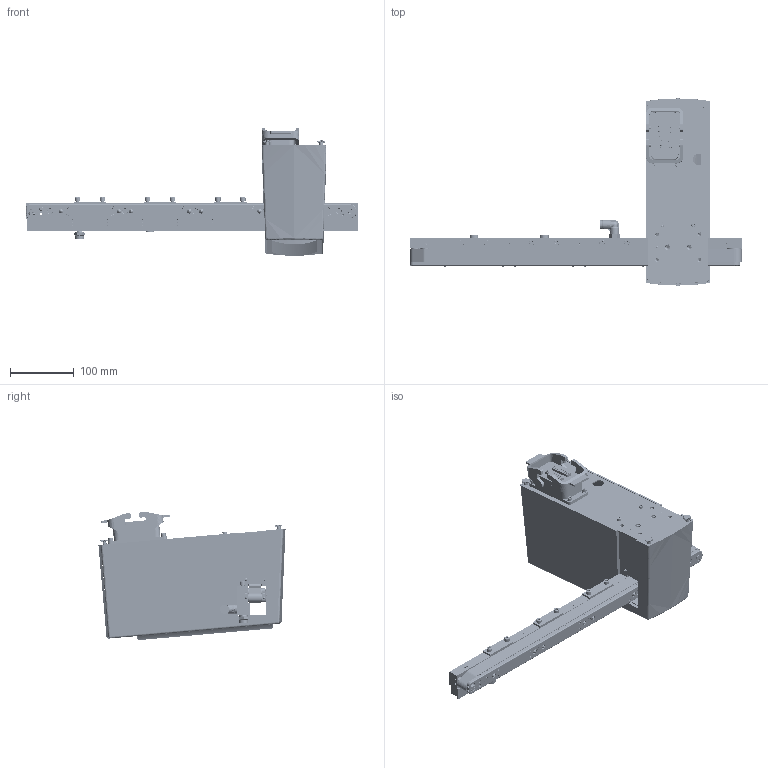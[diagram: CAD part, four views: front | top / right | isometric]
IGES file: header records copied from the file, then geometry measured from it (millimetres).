
Global section: file name: 6.igs; native system: SolidDesigner 3D IGES; preprocessor: 09.01E  09-Nov-2001; date: 20030130.143505; units: millimetre
Bounding box: 520.34 x 293.28 x 201.3 mm (x, y, z)
Surface area: 764192.4 mm2 (no closed solid volume)
Topology: 0 solids, 0 shells, 8024 faces, 72563 edges, 72563 vertices
Faces by surface type: bspline 5639, revolution 2385
